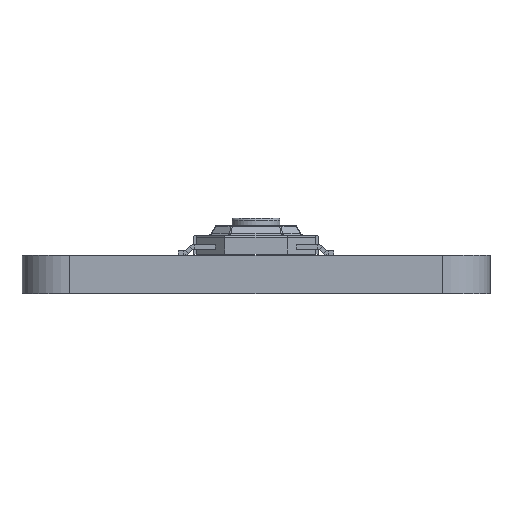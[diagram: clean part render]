
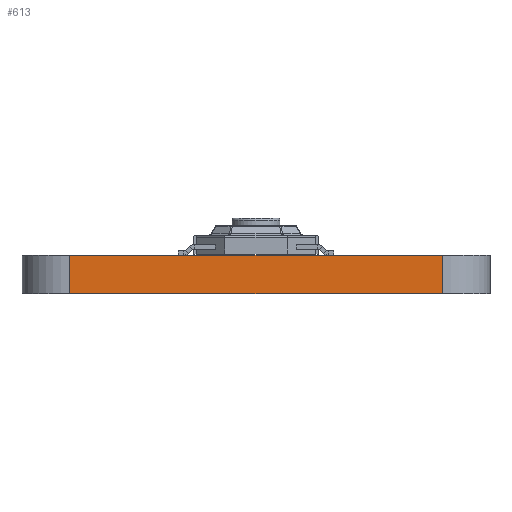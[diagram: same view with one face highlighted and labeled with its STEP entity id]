
A CAD part, front view. The second image highlights one B-rep face of the part: STEP entity #613.
In plain terms, the highlighted planar face has unit normal (0, -1, 0).
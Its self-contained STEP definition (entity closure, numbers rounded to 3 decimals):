
#586 = VERTEX_POINT('',#587);
#587 = CARTESIAN_POINT('',(7.77,-12.735,1.6    ));
#594 = EDGE_CURVE('',#595,#586,#597,.T.);
#595 = VERTEX_POINT('',#596);
#596 = CARTESIAN_POINT('',(7.77,-12.735,0.));
#597 = LINE('',#598,#599);
#598 = CARTESIAN_POINT('',(7.77,-12.735,0.));
#599 = VECTOR('',#600,1.);
#600 = DIRECTION('',(0.,0.,1.));
#613 = ADVANCED_FACE('',(#614),#639,.T.);
#614 = FACE_BOUND('',#615,.T.);
#615 = EDGE_LOOP('',(#616,#617,#625,#633));
#616 = ORIENTED_EDGE('',*,*,#594,.T.);
#617 = ORIENTED_EDGE('',*,*,#618,.T.);
#618 = EDGE_CURVE('',#586,#619,#621,.T.);
#619 = VERTEX_POINT('',#620);
#620 = CARTESIAN_POINT('',(-7.77,-12.735,1.6    ));
#621 = LINE('',#622,#623);
#622 = CARTESIAN_POINT('',(7.77,-12.735,1.6    ));
#623 = VECTOR('',#624,1.);
#624 = DIRECTION('',(-1.,0.,0.));
#625 = ORIENTED_EDGE('',*,*,#626,.F.);
#626 = EDGE_CURVE('',#627,#619,#629,.T.);
#627 = VERTEX_POINT('',#628);
#628 = CARTESIAN_POINT('',(-7.77,-12.735,0.));
#629 = LINE('',#630,#631);
#630 = CARTESIAN_POINT('',(-7.77,-12.735,0.));
#631 = VECTOR('',#632,1.);
#632 = DIRECTION('',(0.,0.,1.));
#633 = ORIENTED_EDGE('',*,*,#634,.F.);
#634 = EDGE_CURVE('',#595,#627,#635,.T.);
#635 = LINE('',#636,#637);
#636 = CARTESIAN_POINT('',(7.77,-12.735,0.));
#637 = VECTOR('',#638,1.);
#638 = DIRECTION('',(-1.,0.,0.));
#639 = PLANE('',#640);
#640 = AXIS2_PLACEMENT_3D('',#641,#642,#643);
#641 = CARTESIAN_POINT('',(7.77,-12.735,0.));
#642 = DIRECTION('',(0.,-1.,0.));
#643 = DIRECTION('',(-1.,0.,0.));
